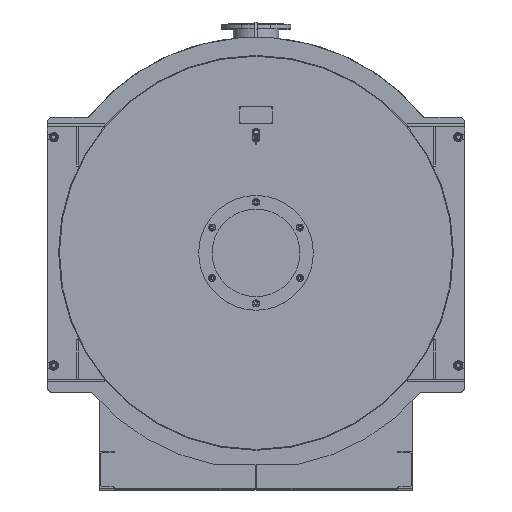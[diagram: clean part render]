
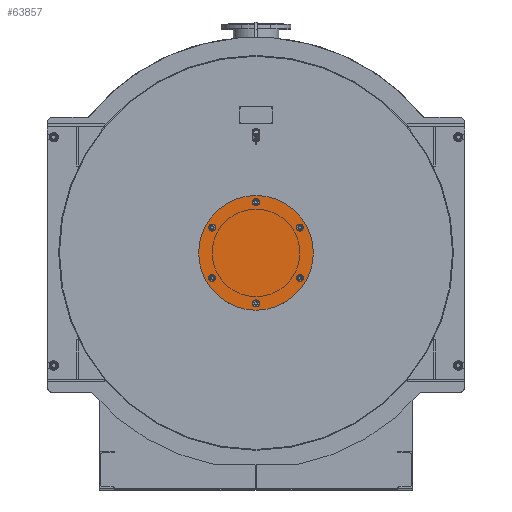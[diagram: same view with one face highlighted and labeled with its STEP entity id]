
A CAD part, top view. The second image highlights one B-rep face of the part: STEP entity #63857.
In plain terms, the highlighted planar face has unit normal (0, 0, 1).
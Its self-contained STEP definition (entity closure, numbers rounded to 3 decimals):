
#2481=PLANE('',#70040);
#15181=CIRCLE('',#70039,17.);
#15182=CIRCLE('',#70041,275.);
#15183=CIRCLE('',#70042,17.);
#15184=CIRCLE('',#70043,17.);
#15185=CIRCLE('',#70044,17.);
#15186=CIRCLE('',#70045,17.);
#15187=CIRCLE('',#70046,17.);
#15976=FACE_BOUND('',#22447,.T.);
#15977=FACE_BOUND('',#22448,.T.);
#15978=FACE_BOUND('',#22449,.T.);
#15979=FACE_BOUND('',#22450,.T.);
#15980=FACE_BOUND('',#22451,.T.);
#15981=FACE_BOUND('',#22452,.T.);
#18795=FACE_OUTER_BOUND('',#22446,.T.);
#22446=EDGE_LOOP('',(#52711));
#22447=EDGE_LOOP('',(#52712));
#22448=EDGE_LOOP('',(#52713));
#22449=EDGE_LOOP('',(#52714));
#22450=EDGE_LOOP('',(#52715));
#22451=EDGE_LOOP('',(#52716));
#22452=EDGE_LOOP('',(#52717));
#28640=VERTEX_POINT('',#107142);
#28641=VERTEX_POINT('',#107146);
#28642=VERTEX_POINT('',#107148);
#28643=VERTEX_POINT('',#107150);
#28644=VERTEX_POINT('',#107152);
#28645=VERTEX_POINT('',#107154);
#28646=VERTEX_POINT('',#107156);
#36852=EDGE_CURVE('',#28640,#28640,#15181,.T.);
#36853=EDGE_CURVE('',#28641,#28641,#15182,.T.);
#36854=EDGE_CURVE('',#28642,#28642,#15183,.T.);
#36855=EDGE_CURVE('',#28643,#28643,#15184,.T.);
#36856=EDGE_CURVE('',#28644,#28644,#15185,.T.);
#36857=EDGE_CURVE('',#28645,#28645,#15186,.T.);
#36858=EDGE_CURVE('',#28646,#28646,#15187,.T.);
#52711=ORIENTED_EDGE('',*,*,#36853,.F.);
#52712=ORIENTED_EDGE('',*,*,#36854,.F.);
#52713=ORIENTED_EDGE('',*,*,#36855,.F.);
#52714=ORIENTED_EDGE('',*,*,#36856,.F.);
#52715=ORIENTED_EDGE('',*,*,#36857,.F.);
#52716=ORIENTED_EDGE('',*,*,#36858,.F.);
#52717=ORIENTED_EDGE('',*,*,#36852,.F.);
#63857=ADVANCED_FACE('',(#18795,#15976,#15977,#15978,#15979,#15980,#15981),
#2481,.T.);
#70039=AXIS2_PLACEMENT_3D('',#107144,#85671,#85672);
#70040=AXIS2_PLACEMENT_3D('',#107145,#85673,#85674);
#70041=AXIS2_PLACEMENT_3D('',#107147,#85675,#85676);
#70042=AXIS2_PLACEMENT_3D('',#107149,#85677,#85678);
#70043=AXIS2_PLACEMENT_3D('',#107151,#85679,#85680);
#70044=AXIS2_PLACEMENT_3D('',#107153,#85681,#85682);
#70045=AXIS2_PLACEMENT_3D('',#107155,#85683,#85684);
#70046=AXIS2_PLACEMENT_3D('',#107157,#85685,#85686);
#85671=DIRECTION('center_axis',(0.,0.,1.));
#85672=DIRECTION('ref_axis',(-1.,0.,0.));
#85673=DIRECTION('center_axis',(0.,0.,1.));
#85674=DIRECTION('ref_axis',(1.,0.,0.));
#85675=DIRECTION('center_axis',(0.,0.,-1.));
#85676=DIRECTION('ref_axis',(1.,0.,0.));
#85677=DIRECTION('center_axis',(0.,0.,1.));
#85678=DIRECTION('ref_axis',(-1.,0.,0.));
#85679=DIRECTION('center_axis',(0.,0.,1.));
#85680=DIRECTION('ref_axis',(-1.,0.,0.));
#85681=DIRECTION('center_axis',(0.,0.,1.));
#85682=DIRECTION('ref_axis',(-1.,0.,0.));
#85683=DIRECTION('center_axis',(0.,0.,1.));
#85684=DIRECTION('ref_axis',(-1.,0.,0.));
#85685=DIRECTION('center_axis',(0.,0.,1.));
#85686=DIRECTION('ref_axis',(-1.,0.,0.));
#107142=CARTESIAN_POINT('',(227.011,-121.25,3624.));
#107144=CARTESIAN_POINT('Origin',(210.011,-121.25,3624.));
#107145=CARTESIAN_POINT('Origin',(0.,0.,3624.));
#107146=CARTESIAN_POINT('',(-275.,0.,3624.));
#107147=CARTESIAN_POINT('Origin',(0.,0.,3624.));
#107148=CARTESIAN_POINT('',(227.011,121.25,3624.));
#107149=CARTESIAN_POINT('Origin',(210.011,121.25,3624.));
#107150=CARTESIAN_POINT('',(17.,-242.5,3624.));
#107151=CARTESIAN_POINT('Origin',(0.,-242.5,3624.));
#107152=CARTESIAN_POINT('',(17.,242.5,3624.));
#107153=CARTESIAN_POINT('Origin',(0.,242.5,3624.));
#107154=CARTESIAN_POINT('',(-193.011,121.25,3624.));
#107155=CARTESIAN_POINT('Origin',(-210.011,121.25,3624.));
#107156=CARTESIAN_POINT('',(-193.011,-121.25,3624.));
#107157=CARTESIAN_POINT('Origin',(-210.011,-121.25,3624.));
